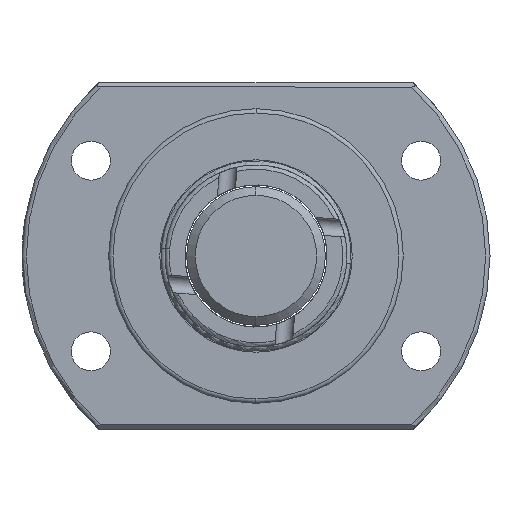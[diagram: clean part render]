
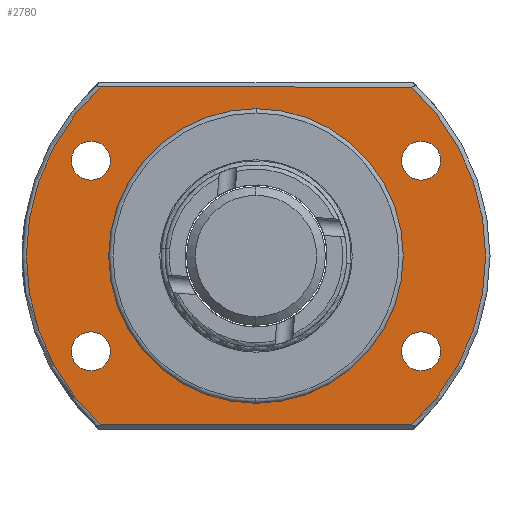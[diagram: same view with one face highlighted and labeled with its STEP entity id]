
A CAD part, left-side view. The second image highlights one B-rep face of the part: STEP entity #2780.
In plain terms, the highlighted planar face has unit normal (-1, 0, 0).
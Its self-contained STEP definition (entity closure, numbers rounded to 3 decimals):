
#8 = ORIENTED_EDGE ( 'NONE', *, *, #3265, .T. ) ;
#15 = VERTEX_POINT ( 'NONE', #585 ) ;
#22 = CARTESIAN_POINT ( 'NONE',  ( 0., 17.385, 19.5 ) ) ;
#68 = DIRECTION ( 'NONE',  ( 0., 0., -1. ) ) ;
#97 = ORIENTED_EDGE ( 'NONE', *, *, #2160, .T. ) ;
#117 = AXIS2_PLACEMENT_3D ( 'NONE', #1021, #3092, #68 ) ;
#152 = EDGE_LOOP ( 'NONE', ( #8, #306 ) ) ;
#190 = EDGE_CURVE ( 'NONE', #3611, #880, #2984, .T. ) ;
#194 = DIRECTION ( 'NONE',  ( 0., 0., -1. ) ) ;
#258 = DIRECTION ( 'NONE',  ( 0., -1., 0. ) ) ;
#306 = ORIENTED_EDGE ( 'NONE', *, *, #1498, .T. ) ;
#333 = AXIS2_PLACEMENT_3D ( 'NONE', #3522, #822, #3189 ) ;
#399 = EDGE_CURVE ( 'NONE', #2077, #2158, #3684, .T. ) ;
#435 = VERTEX_POINT ( 'NONE', #2881 ) ;
#452 = EDGE_LOOP ( 'NONE', ( #1156, #3253 ) ) ;
#455 = CARTESIAN_POINT ( 'NONE',  ( 0., -19.053, -13.25 ) ) ;
#468 = VERTEX_POINT ( 'NONE', #3568 ) ;
#469 = CARTESIAN_POINT ( 'NONE',  ( 0., 0., 0. ) ) ;
#519 = VECTOR ( 'NONE', #3572, 1000. ) ;
#529 = EDGE_CURVE ( 'NONE', #2158, #2077, #2708, .T. ) ;
#542 = ORIENTED_EDGE ( 'NONE', *, *, #3033, .T. ) ;
#560 = CARTESIAN_POINT ( 'NONE',  ( 0., 0., 0. ) ) ;
#570 = DIRECTION ( 'NONE',  ( 0., 0., -1. ) ) ;
#585 = CARTESIAN_POINT ( 'NONE',  ( 0., 0., -17. ) ) ;
#598 = EDGE_LOOP ( 'NONE', ( #3330, #97 ) ) ;
#675 = FACE_BOUND ( 'NONE', #152, .T. ) ;
#695 = EDGE_CURVE ( 'NONE', #15, #2846, #3241, .T. ) ;
#744 = CARTESIAN_POINT ( 'NONE',  ( 0., -19.053, 13.25 ) ) ;
#795 = AXIS2_PLACEMENT_3D ( 'NONE', #2252, #2567, #2834 ) ;
#822 = DIRECTION ( 'NONE',  ( 1., 0., 0. ) ) ;
#836 = VERTEX_POINT ( 'NONE', #1991 ) ;
#856 = AXIS2_PLACEMENT_3D ( 'NONE', #2513, #1654, #3738 ) ;
#876 = AXIS2_PLACEMENT_3D ( 'NONE', #1587, #3414, #3708 ) ;
#880 = VERTEX_POINT ( 'NONE', #2005 ) ;
#920 = EDGE_CURVE ( 'NONE', #1437, #468, #1749, .T. ) ;
#923 = CARTESIAN_POINT ( 'NONE',  ( 0., 19.053, -11. ) ) ;
#979 = EDGE_LOOP ( 'NONE', ( #1730, #1178 ) ) ;
#1021 = CARTESIAN_POINT ( 'NONE',  ( 0., -19.053, -11. ) ) ;
#1072 = DIRECTION ( 'NONE',  ( 0., 0., -1. ) ) ;
#1100 = ORIENTED_EDGE ( 'NONE', *, *, #1546, .T. ) ;
#1109 = VERTEX_POINT ( 'NONE', #2557 ) ;
#1115 = EDGE_LOOP ( 'NONE', ( #3458, #1100, #1622, #542 ) ) ;
#1156 = ORIENTED_EDGE ( 'NONE', *, *, #1254, .T. ) ;
#1178 = ORIENTED_EDGE ( 'NONE', *, *, #2552, .F. ) ;
#1217 = DIRECTION ( 'NONE',  ( 0., 0., -1. ) ) ;
#1254 = EDGE_CURVE ( 'NONE', #435, #836, #3237, .T. ) ;
#1255 = AXIS2_PLACEMENT_3D ( 'NONE', #3107, #2253, #1072 ) ;
#1333 = AXIS2_PLACEMENT_3D ( 'NONE', #1484, #3555, #3229 ) ;
#1388 = CIRCLE ( 'NONE', #795, 2.25 ) ;
#1400 = DIRECTION ( 'NONE',  ( 1., 0., 0. ) ) ;
#1437 = VERTEX_POINT ( 'NONE', #3015 ) ;
#1484 = CARTESIAN_POINT ( 'NONE',  ( 0., 0., 0. ) ) ;
#1498 = EDGE_CURVE ( 'NONE', #2151, #3013, #3339, .T. ) ;
#1546 = EDGE_CURVE ( 'NONE', #1109, #1437, #2218, .T. ) ;
#1587 = CARTESIAN_POINT ( 'NONE',  ( 0., 19.053, 11. ) ) ;
#1622 = ORIENTED_EDGE ( 'NONE', *, *, #920, .T. ) ;
#1628 = CARTESIAN_POINT ( 'NONE',  ( 0., -19.053, -8.75 ) ) ;
#1643 = AXIS2_PLACEMENT_3D ( 'NONE', #3771, #1400, #3505 ) ;
#1654 = DIRECTION ( 'NONE',  ( -1., 0., 0. ) ) ;
#1680 = EDGE_LOOP ( 'NONE', ( #2936, #2467 ) ) ;
#1716 = CARTESIAN_POINT ( 'NONE',  ( 0., -19.053, 11. ) ) ;
#1730 = ORIENTED_EDGE ( 'NONE', *, *, #695, .F. ) ;
#1742 = VECTOR ( 'NONE', #258, 1000. ) ;
#1749 = CIRCLE ( 'NONE', #1333, 26.5 ) ;
#1844 = FACE_OUTER_BOUND ( 'NONE', #1115, .T. ) ;
#1883 = VERTEX_POINT ( 'NONE', #2400 ) ;
#1940 = CIRCLE ( 'NONE', #3662, 2.25 ) ;
#1974 = AXIS2_PLACEMENT_3D ( 'NONE', #560, #2926, #3262 ) ;
#1991 = CARTESIAN_POINT ( 'NONE',  ( 0., 19.053, -8.75 ) ) ;
#2005 = CARTESIAN_POINT ( 'NONE',  ( 0., 19.053, 13.25 ) ) ;
#2077 = VERTEX_POINT ( 'NONE', #1628 ) ;
#2126 = LINE ( 'NONE', #22, #519 ) ;
#2128 = FACE_BOUND ( 'NONE', #452, .T. ) ;
#2151 = VERTEX_POINT ( 'NONE', #744 ) ;
#2158 = VERTEX_POINT ( 'NONE', #455 ) ;
#2160 = EDGE_CURVE ( 'NONE', #880, #3611, #1388, .T. ) ;
#2218 = LINE ( 'NONE', #3195, #1742 ) ;
#2252 = CARTESIAN_POINT ( 'NONE',  ( 0., 19.053, 11. ) ) ;
#2253 = DIRECTION ( 'NONE',  ( 1., 0., 0. ) ) ;
#2265 = FACE_BOUND ( 'NONE', #598, .T. ) ;
#2321 = PLANE ( 'NONE',  #3838 ) ;
#2334 = CARTESIAN_POINT ( 'NONE',  ( 0., 19.053, 8.75 ) ) ;
#2360 = CARTESIAN_POINT ( 'NONE',  ( 0., 0., 0. ) ) ;
#2368 = EDGE_CURVE ( 'NONE', #836, #435, #1940, .T. ) ;
#2374 = DIRECTION ( 'NONE',  ( 1., 0., 0. ) ) ;
#2400 = CARTESIAN_POINT ( 'NONE',  ( 0., 17.944, 19.5 ) ) ;
#2405 = CIRCLE ( 'NONE', #1255, 2.25 ) ;
#2433 = CARTESIAN_POINT ( 'NONE',  ( 0., -19.053, 8.75 ) ) ;
#2467 = ORIENTED_EDGE ( 'NONE', *, *, #399, .T. ) ;
#2513 = CARTESIAN_POINT ( 'NONE',  ( 0., 0., 0. ) ) ;
#2552 = EDGE_CURVE ( 'NONE', #2846, #15, #3425, .T. ) ;
#2557 = CARTESIAN_POINT ( 'NONE',  ( 0., 17.944, -19.5 ) ) ;
#2567 = DIRECTION ( 'NONE',  ( 1., 0., 0. ) ) ;
#2708 = CIRCLE ( 'NONE', #117, 2.25 ) ;
#2769 = EDGE_CURVE ( 'NONE', #1883, #1109, #3049, .T. ) ;
#2780 = ADVANCED_FACE ( 'NONE', ( #3845, #675, #2128, #2265, #3749, #1844 ), #2321, .F. ) ;
#2783 = AXIS2_PLACEMENT_3D ( 'NONE', #1716, #3500, #570 ) ;
#2834 = DIRECTION ( 'NONE',  ( 0., 0., -1. ) ) ;
#2846 = VERTEX_POINT ( 'NONE', #3215 ) ;
#2881 = CARTESIAN_POINT ( 'NONE',  ( 0., 19.053, -13.25 ) ) ;
#2926 = DIRECTION ( 'NONE',  ( -1., 0., 0. ) ) ;
#2936 = ORIENTED_EDGE ( 'NONE', *, *, #529, .T. ) ;
#2983 = AXIS2_PLACEMENT_3D ( 'NONE', #469, #3138, #3763 ) ;
#2984 = CIRCLE ( 'NONE', #876, 2.25 ) ;
#3013 = VERTEX_POINT ( 'NONE', #2433 ) ;
#3015 = CARTESIAN_POINT ( 'NONE',  ( 0., -17.944, -19.5 ) ) ;
#3033 = EDGE_CURVE ( 'NONE', #468, #1883, #2126, .T. ) ;
#3049 = CIRCLE ( 'NONE', #1974, 26.5 ) ;
#3092 = DIRECTION ( 'NONE',  ( 1., 0., 0. ) ) ;
#3107 = CARTESIAN_POINT ( 'NONE',  ( 0., -19.053, 11. ) ) ;
#3138 = DIRECTION ( 'NONE',  ( -1., 0., 0. ) ) ;
#3189 = DIRECTION ( 'NONE',  ( 0., 0., -1. ) ) ;
#3195 = CARTESIAN_POINT ( 'NONE',  ( 0., -17.385, -19.5 ) ) ;
#3215 = CARTESIAN_POINT ( 'NONE',  ( 0., 0., 17. ) ) ;
#3226 = DIRECTION ( 'NONE',  ( 1., 0., 0. ) ) ;
#3229 = DIRECTION ( 'NONE',  ( 0., 0., -1. ) ) ;
#3237 = CIRCLE ( 'NONE', #1643, 2.25 ) ;
#3241 = CIRCLE ( 'NONE', #856, 17. ) ;
#3253 = ORIENTED_EDGE ( 'NONE', *, *, #2368, .T. ) ;
#3262 = DIRECTION ( 'NONE',  ( 0., 0., -1. ) ) ;
#3265 = EDGE_CURVE ( 'NONE', #3013, #2151, #2405, .T. ) ;
#3330 = ORIENTED_EDGE ( 'NONE', *, *, #190, .T. ) ;
#3339 = CIRCLE ( 'NONE', #2783, 2.25 ) ;
#3414 = DIRECTION ( 'NONE',  ( 1., 0., 0. ) ) ;
#3425 = CIRCLE ( 'NONE', #2983, 17. ) ;
#3458 = ORIENTED_EDGE ( 'NONE', *, *, #2769, .T. ) ;
#3500 = DIRECTION ( 'NONE',  ( 1., 0., 0. ) ) ;
#3505 = DIRECTION ( 'NONE',  ( 0., 0., -1. ) ) ;
#3522 = CARTESIAN_POINT ( 'NONE',  ( 0., -19.053, -11. ) ) ;
#3555 = DIRECTION ( 'NONE',  ( -1., 0., 0. ) ) ;
#3568 = CARTESIAN_POINT ( 'NONE',  ( 0., -17.944, 19.5 ) ) ;
#3572 = DIRECTION ( 'NONE',  ( 0., 1., 0. ) ) ;
#3611 = VERTEX_POINT ( 'NONE', #2334 ) ;
#3662 = AXIS2_PLACEMENT_3D ( 'NONE', #923, #2374, #1217 ) ;
#3684 = CIRCLE ( 'NONE', #333, 2.25 ) ;
#3708 = DIRECTION ( 'NONE',  ( 0., 0., -1. ) ) ;
#3738 = DIRECTION ( 'NONE',  ( 0., 0., -1. ) ) ;
#3749 = FACE_BOUND ( 'NONE', #979, .T. ) ;
#3763 = DIRECTION ( 'NONE',  ( 0., 0., -1. ) ) ;
#3771 = CARTESIAN_POINT ( 'NONE',  ( 0., 19.053, -11. ) ) ;
#3838 = AXIS2_PLACEMENT_3D ( 'NONE', #2360, #3226, #194 ) ;
#3845 = FACE_BOUND ( 'NONE', #1680, .T. ) ;
